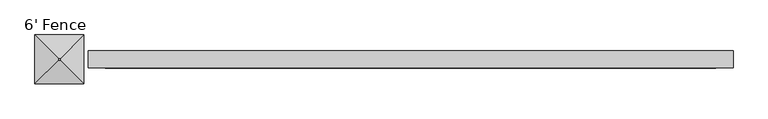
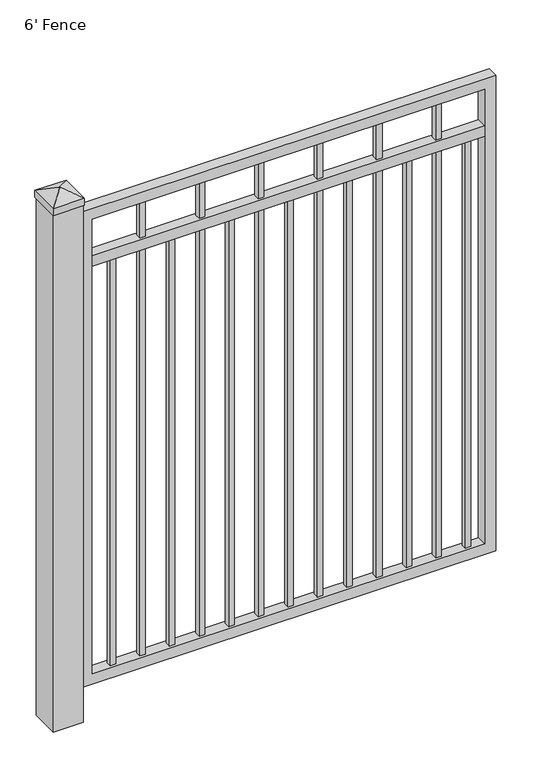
"""IFC4 building model written with IfcOpenShell, lengths in millimetres: proxy geometry, Ornamental_Gate_5113 : 6' Fence."""

from ifc_helpers import new_model, si_unit, frame, origin, origin_with_axes, place, context, project, spatial, polyline, outline, extrude, faceted_brep, source, transform, mapped, element, save


def proxy_6_fence_7c1e0d6d(model_context):
    return source(origin(), model_context, "Body", "SolidModel", [
        extrude(outline(polyline([(1406.525, 9.525), (1406.525, -9.525), (1387.475, -9.525), (1387.475, 9.525), (1406.525, 9.525)])), frame((0.0, 0.0, 139.7), z_axis=(0.0, 0.0, 1.0), x_axis=(1.0, 0.0, 0.0)), (0.0, 0.0, 1.0), 1479.55),
        extrude(outline(polyline([(1304.925, 9.525), (1304.925, -9.525), (1285.875, -9.525), (1285.875, 9.525), (1304.925, 9.525)])), frame((0.0, 0.0, 139.7), z_axis=(0.0, 0.0, 1.0), x_axis=(1.0, 0.0, 0.0)), (0.0, 0.0, 1.0), 1479.55),
        extrude(outline(polyline([(1203.325, 9.525), (1203.325, -9.525), (1184.275, -9.525), (1184.275, 9.525), (1203.325, 9.525)])), frame((0.0, 0.0, 139.7), z_axis=(0.0, 0.0, 1.0), x_axis=(1.0, 0.0, 0.0)), (0.0, 0.0, 1.0), 1479.55),
        extrude(outline(polyline([(1101.725, 9.525), (1101.725, -9.525), (1082.675, -9.525), (1082.675, 9.525), (1101.725, 9.525)])), frame((0.0, 0.0, 139.7), z_axis=(0.0, 0.0, 1.0), x_axis=(1.0, 0.0, 0.0)), (0.0, 0.0, 1.0), 1479.55),
        extrude(outline(polyline([(1000.125, 9.525), (1000.125, -9.525), (981.075, -9.525), (981.075, 9.525), (1000.125, 9.525)])), frame((0.0, 0.0, 139.7), z_axis=(0.0, 0.0, 1.0), x_axis=(1.0, 0.0, 0.0)), (0.0, 0.0, 1.0), 1479.55),
        extrude(outline(polyline([(898.525, 9.525), (898.525, -9.525), (879.475, -9.525), (879.475, 9.525), (898.525, 9.525)])), frame((0.0, 0.0, 139.7), z_axis=(0.0, 0.0, 1.0), x_axis=(1.0, 0.0, 0.0)), (0.0, 0.0, 1.0), 1479.55),
        extrude(outline(polyline([(1304.925, 9.525), (1304.925, -9.525), (1285.875, -9.525), (1285.875, 9.525), (1304.925, 9.525)])), frame((0.0, 0.0, 1657.35), z_axis=(0.0, 0.0, 1.0), x_axis=(1.0, 0.0, 0.0)), (0.0, 0.0, 1.0), 133.35),
        extrude(outline(polyline([(1101.725, 9.525), (1101.725, -9.525), (1082.675, -9.525), (1082.675, 9.525), (1101.725, 9.525)])), frame((0.0, 0.0, 1657.35), z_axis=(0.0, 0.0, 1.0), x_axis=(1.0, 0.0, 0.0)), (0.0, 0.0, 1.0), 133.35),
        extrude(outline(polyline([(898.525, 9.525), (898.525, -9.525), (879.475, -9.525), (879.475, 9.525), (898.525, 9.525)])), frame((0.0, 0.0, 1657.35), z_axis=(0.0, 0.0, 1.0), x_axis=(1.0, 0.0, 0.0)), (0.0, 0.0, 1.0), 133.35),
        extrude(outline(polyline([(796.925, 9.525), (796.925, -9.525), (777.875, -9.525), (777.875, 9.525), (796.925, 9.525)])), frame((0.0, 0.0, 139.7), z_axis=(0.0, 0.0, 1.0), x_axis=(1.0, 0.0, 0.0)), (0.0, 0.0, 1.0), 1479.55),
        extrude(outline(polyline([(695.325, 9.525), (695.325, -9.525), (676.275, -9.525), (676.275, 9.525), (695.325, 9.525)])), frame((0.0, 0.0, 139.7), z_axis=(0.0, 0.0, 1.0), x_axis=(1.0, 0.0, 0.0)), (0.0, 0.0, 1.0), 1479.55),
        extrude(outline(polyline([(593.725, 9.525), (593.725, -9.525), (574.675, -9.525), (574.675, 9.525), (593.725, 9.525)])), frame((0.0, 0.0, 139.7), z_axis=(0.0, 0.0, 1.0), x_axis=(1.0, 0.0, 0.0)), (0.0, 0.0, 1.0), 1479.55),
        extrude(outline(polyline([(492.125, 9.525), (492.125, -9.525), (473.075, -9.525), (473.075, 9.525), (492.125, 9.525)])), frame((0.0, 0.0, 139.7), z_axis=(0.0, 0.0, 1.0), x_axis=(1.0, 0.0, 0.0)), (0.0, 0.0, 1.0), 1479.55),
        extrude(outline(polyline([(390.525, 9.525), (390.525, -9.525), (371.475, -9.525), (371.475, 9.525), (390.525, 9.525)])), frame((0.0, 0.0, 139.7), z_axis=(0.0, 0.0, 1.0), x_axis=(1.0, 0.0, 0.0)), (0.0, 0.0, 1.0), 1479.55),
        extrude(outline(polyline([(288.925, 9.525), (288.925, -9.525), (269.875, -9.525), (269.875, 9.525), (288.925, 9.525)])), frame((0.0, 0.0, 139.7), z_axis=(0.0, 0.0, 1.0), x_axis=(1.0, 0.0, 0.0)), (0.0, 0.0, 1.0), 1479.55),
        extrude(outline(polyline([(695.325, 9.525), (695.325, -9.525), (676.275, -9.525), (676.275, 9.525), (695.325, 9.525)])), frame((0.0, 0.0, 1657.35), z_axis=(0.0, 0.0, 1.0), x_axis=(1.0, 0.0, 0.0)), (0.0, 0.0, 1.0), 133.35),
        extrude(outline(polyline([(492.125, 9.525), (492.125, -9.525), (473.075, -9.525), (473.075, 9.525), (492.125, 9.525)])), frame((0.0, 0.0, 1657.35), z_axis=(0.0, 0.0, 1.0), x_axis=(1.0, 0.0, 0.0)), (0.0, 0.0, 1.0), 133.35),
        extrude(outline(polyline([(288.925, 9.525), (288.925, -9.525), (269.875, -9.525), (269.875, 9.525), (288.925, 9.525)])), frame((0.0, 0.0, 1657.35), z_axis=(0.0, 0.0, 1.0), x_axis=(1.0, 0.0, 0.0)), (0.0, 0.0, 1.0), 133.35),
        extrude(outline(polyline([(187.325, 9.525), (187.325, -9.525), (168.275, -9.525), (168.275, 9.525), (187.325, 9.525)])), frame((0.0, 0.0, 139.7), z_axis=(0.0, 0.0, 1.0), x_axis=(1.0, 0.0, 0.0)), (0.0, 0.0, 1.0), 1479.55),
        faceted_brep([(53.975, -53.975, 1879.6), (-53.975, -53.975, 1879.6), (-53.975, 53.975, 1879.6), (53.975, 53.975, 1879.6), (53.975, -53.975, 1905.0), (-53.975, -53.975, 1905.0), (-53.975, 53.975, 1905.0), (53.975, 53.975, 1905.0), (1.6410856, -1.6859151, 1930.4), (1.6410856, 1.6225167, 1930.4), (-1.5776872, 1.6225167, 1930.4), (-1.5776872, -1.6859151, 1930.4)], [[[0, 1, 2, 3]], [[0, 4, 5, 1]], [[1, 5, 6, 2]], [[2, 6, 7, 3]], [[3, 7, 4, 0]], [[8, 9, 10, 11]], [[11, 5, 4, 8]], [[10, 6, 5, 11]], [[9, 7, 6, 10]], [[8, 4, 7, 9]]]),
        extrude(outline(polyline([(50.8, 50.8), (50.8, -50.8), (-50.8, -50.8), (-50.8, 50.8), (50.8, 50.8)])), origin_with_axes(), (0.0, 0.0, 1.0), 1905.0),
        extrude(outline(polyline([(1449.2, -19.05), (101.6, -19.05), (101.6, 19.05), (1449.2, 19.05), (1449.2, -19.05)])), frame((0.0, 0.0, 1619.25), z_axis=(0.0, 0.0, 1.0), x_axis=(1.0, 0.0, 0.0)), (0.0, 0.0, 1.0), 38.1),
        extrude(outline(polyline([(101.6, 1487.3), (1828.8, 1487.3), (1828.8, 63.5), (101.6, 63.5), (101.6, 1487.3)]), holes=[polyline([(1790.7, 1449.2), (139.7, 1449.2), (139.7, 101.6), (1790.7, 101.6), (1790.7, 1449.2)])]), frame((0.0, -19.05, 0.0), z_axis=(0.0, 1.0, 0.0), x_axis=(0.0, 0.0, 1.0)), (0.0, 0.0, 1.0), 38.1),
    ])


if __name__ == "__main__":
    model = new_model("IFC4")
    model_context = context("Model", 3, world=origin())
    ifc_project = project(units=[si_unit("LENGTHUNIT", "METRE", prefix="MILLI")], contexts=[model_context])
    site = spatial("IfcSite", under=ifc_project)
    building = spatial("IfcBuilding", under=site)
    placement = place(None, origin())
    proxy_6_fence_shape = proxy_6_fence_7c1e0d6d(model_context)
    element("IfcBuildingElementProxy", 1, Name="Ornamental_Gate_5113 : 6' Fence", ObjectType="Ornamental_Gate_5113 : 6' Fence", at=placement, inside=building, context=model_context, shape_type="MappedRepresentation", body=[
        mapped(proxy_6_fence_shape, transform((0.0, 0.0, 0.0), x_axis=(1.0, 0.0, 0.0), y_axis=(0.0, 1.0, 0.0), z_axis=(0.0, 0.0, 1.0))),
    ])
    save(model, "model.ifc")
